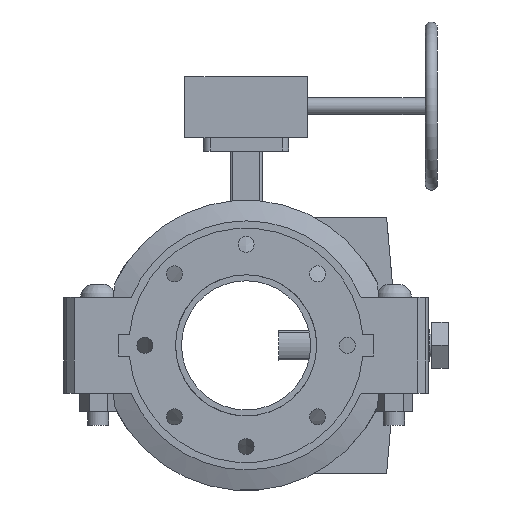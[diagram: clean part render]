
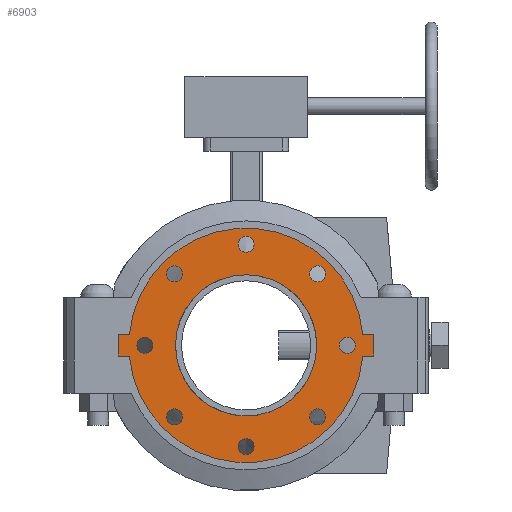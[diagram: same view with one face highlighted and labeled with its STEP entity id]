
A CAD part, front view. The second image highlights one B-rep face of the part: STEP entity #6903.
In plain terms, the highlighted planar face has unit normal (0, -1, 0) as drawn and (0, 0, -1) by its records, which use the part's own axes.
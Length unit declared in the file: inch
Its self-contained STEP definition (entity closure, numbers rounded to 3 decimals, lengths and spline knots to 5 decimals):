
#168=FACE_BOUND('',#892,.T.);
#169=FACE_BOUND('',#893,.T.);
#170=FACE_BOUND('',#894,.T.);
#171=FACE_BOUND('',#895,.T.);
#172=FACE_BOUND('',#896,.T.);
#173=FACE_BOUND('',#897,.T.);
#174=FACE_BOUND('',#898,.T.);
#175=FACE_BOUND('',#899,.T.);
#176=FACE_BOUND('',#900,.T.);
#263=PLANE('',#7514);
#507=FACE_OUTER_BOUND('',#891,.T.);
#891=EDGE_LOOP('',(#4458,#4459,#4460,#4461,#4462,#4463,#4464,#4465));
#892=EDGE_LOOP('',(#4466));
#893=EDGE_LOOP('',(#4467));
#894=EDGE_LOOP('',(#4468));
#895=EDGE_LOOP('',(#4469));
#896=EDGE_LOOP('',(#4470));
#897=EDGE_LOOP('',(#4471));
#898=EDGE_LOOP('',(#4472));
#899=EDGE_LOOP('',(#4473));
#900=EDGE_LOOP('',(#4474,#4475));
#1370=LINE('',#10487,#1881);
#1371=LINE('',#10489,#1882);
#1372=LINE('',#10491,#1883);
#1373=LINE('',#10495,#1884);
#1374=LINE('',#10497,#1885);
#1375=LINE('',#10498,#1886);
#1881=VECTOR('',#8363,0.3937);
#1882=VECTOR('',#8364,0.3937);
#1883=VECTOR('',#8365,0.3937);
#1884=VECTOR('',#8368,0.3937);
#1885=VECTOR('',#8369,0.3937);
#1886=VECTOR('',#8370,0.3937);
#2385=CIRCLE('',#7492,0.375);
#2387=CIRCLE('',#7495,0.375);
#2389=CIRCLE('',#7498,0.375);
#2391=CIRCLE('',#7501,0.375);
#2393=CIRCLE('',#7504,0.375);
#2395=CIRCLE('',#7507,0.375);
#2397=CIRCLE('',#7510,0.375);
#2399=CIRCLE('',#7513,0.375);
#2400=CIRCLE('',#7515,5.5);
#2401=CIRCLE('',#7516,5.5);
#2402=CIRCLE('',#7517,3.3125);
#2403=CIRCLE('',#7518,3.3125);
#2784=VERTEX_POINT('',#10437);
#2786=VERTEX_POINT('',#10443);
#2788=VERTEX_POINT('',#10449);
#2790=VERTEX_POINT('',#10455);
#2792=VERTEX_POINT('',#10461);
#2794=VERTEX_POINT('',#10467);
#2796=VERTEX_POINT('',#10473);
#2798=VERTEX_POINT('',#10479);
#2799=VERTEX_POINT('',#10483);
#2800=VERTEX_POINT('',#10484);
#2801=VERTEX_POINT('',#10486);
#2802=VERTEX_POINT('',#10488);
#2803=VERTEX_POINT('',#10490);
#2804=VERTEX_POINT('',#10492);
#2805=VERTEX_POINT('',#10494);
#2806=VERTEX_POINT('',#10496);
#2807=VERTEX_POINT('',#10499);
#2808=VERTEX_POINT('',#10500);
#3452=EDGE_CURVE('',#2784,#2784,#2385,.T.);
#3455=EDGE_CURVE('',#2786,#2786,#2387,.T.);
#3458=EDGE_CURVE('',#2788,#2788,#2389,.T.);
#3461=EDGE_CURVE('',#2790,#2790,#2391,.T.);
#3464=EDGE_CURVE('',#2792,#2792,#2393,.T.);
#3467=EDGE_CURVE('',#2794,#2794,#2395,.T.);
#3470=EDGE_CURVE('',#2796,#2796,#2397,.T.);
#3473=EDGE_CURVE('',#2798,#2798,#2399,.T.);
#3474=EDGE_CURVE('',#2799,#2800,#2400,.T.);
#3475=EDGE_CURVE('',#2800,#2801,#1370,.T.);
#3476=EDGE_CURVE('',#2801,#2802,#1371,.T.);
#3477=EDGE_CURVE('',#2802,#2803,#1372,.T.);
#3478=EDGE_CURVE('',#2803,#2804,#2401,.T.);
#3479=EDGE_CURVE('',#2804,#2805,#1373,.T.);
#3480=EDGE_CURVE('',#2805,#2806,#1374,.T.);
#3481=EDGE_CURVE('',#2806,#2799,#1375,.T.);
#3482=EDGE_CURVE('',#2807,#2808,#2402,.T.);
#3483=EDGE_CURVE('',#2808,#2807,#2403,.T.);
#4458=ORIENTED_EDGE('',*,*,#3474,.T.);
#4459=ORIENTED_EDGE('',*,*,#3475,.T.);
#4460=ORIENTED_EDGE('',*,*,#3476,.T.);
#4461=ORIENTED_EDGE('',*,*,#3477,.T.);
#4462=ORIENTED_EDGE('',*,*,#3478,.T.);
#4463=ORIENTED_EDGE('',*,*,#3479,.T.);
#4464=ORIENTED_EDGE('',*,*,#3480,.T.);
#4465=ORIENTED_EDGE('',*,*,#3481,.T.);
#4466=ORIENTED_EDGE('',*,*,#3452,.T.);
#4467=ORIENTED_EDGE('',*,*,#3455,.T.);
#4468=ORIENTED_EDGE('',*,*,#3458,.T.);
#4469=ORIENTED_EDGE('',*,*,#3461,.T.);
#4470=ORIENTED_EDGE('',*,*,#3464,.T.);
#4471=ORIENTED_EDGE('',*,*,#3467,.T.);
#4472=ORIENTED_EDGE('',*,*,#3470,.T.);
#4473=ORIENTED_EDGE('',*,*,#3473,.T.);
#4474=ORIENTED_EDGE('',*,*,#3482,.T.);
#4475=ORIENTED_EDGE('',*,*,#3483,.T.);
#6903=ADVANCED_FACE('',(#507,#168,#169,#170,#171,#172,#173,#174,#175,#176),
#263,.T.);
#7492=AXIS2_PLACEMENT_3D('',#10439,#8308,#8309);
#7495=AXIS2_PLACEMENT_3D('',#10445,#8315,#8316);
#7498=AXIS2_PLACEMENT_3D('',#10451,#8322,#8323);
#7501=AXIS2_PLACEMENT_3D('',#10457,#8329,#8330);
#7504=AXIS2_PLACEMENT_3D('',#10463,#8336,#8337);
#7507=AXIS2_PLACEMENT_3D('',#10469,#8343,#8344);
#7510=AXIS2_PLACEMENT_3D('',#10475,#8350,#8351);
#7513=AXIS2_PLACEMENT_3D('',#10481,#8357,#8358);
#7514=AXIS2_PLACEMENT_3D('',#10482,#8359,#8360);
#7515=AXIS2_PLACEMENT_3D('',#10485,#8361,#8362);
#7516=AXIS2_PLACEMENT_3D('',#10493,#8366,#8367);
#7517=AXIS2_PLACEMENT_3D('',#10501,#8371,#8372);
#7518=AXIS2_PLACEMENT_3D('',#10502,#8373,#8374);
#8308=DIRECTION('center_axis',(0.,0.,1.));
#8309=DIRECTION('ref_axis',(-0.707,0.707,0.));
#8315=DIRECTION('center_axis',(0.,0.,1.));
#8316=DIRECTION('ref_axis',(0.,1.,0.));
#8322=DIRECTION('center_axis',(0.,0.,1.));
#8323=DIRECTION('ref_axis',(0.707,0.707,0.));
#8329=DIRECTION('center_axis',(0.,0.,1.));
#8330=DIRECTION('ref_axis',(1.,0.,0.));
#8336=DIRECTION('center_axis',(0.,0.,1.));
#8337=DIRECTION('ref_axis',(0.707,-0.707,0.));
#8343=DIRECTION('center_axis',(0.,0.,1.));
#8344=DIRECTION('ref_axis',(0.,-1.,0.));
#8350=DIRECTION('center_axis',(0.,0.,1.));
#8351=DIRECTION('ref_axis',(-0.707,-0.707,0.));
#8357=DIRECTION('center_axis',(0.,0.,1.));
#8358=DIRECTION('ref_axis',(-1.,0.,0.));
#8359=DIRECTION('center_axis',(0.,0.,-1.));
#8360=DIRECTION('ref_axis',(-1.,0.,0.));
#8361=DIRECTION('center_axis',(0.,0.,-1.));
#8362=DIRECTION('ref_axis',(-1.,0.,0.));
#8363=DIRECTION('',(0.,1.,0.));
#8364=DIRECTION('',(1.,0.,0.));
#8365=DIRECTION('',(0.,-1.,0.));
#8366=DIRECTION('center_axis',(0.,0.,-1.));
#8367=DIRECTION('ref_axis',(-1.,0.,0.));
#8368=DIRECTION('',(0.,-1.,0.));
#8369=DIRECTION('',(-1.,0.,0.));
#8370=DIRECTION('',(0.,1.,0.));
#8371=DIRECTION('center_axis',(0.,0.,1.));
#8372=DIRECTION('ref_axis',(-1.,0.,0.));
#8373=DIRECTION('center_axis',(0.,0.,1.));
#8374=DIRECTION('ref_axis',(-1.,0.,0.));
#10437=CARTESIAN_POINT('',(-3.09359,3.09359,-0.5));
#10439=CARTESIAN_POINT('Origin',(-3.35876,3.35876,-0.5));
#10443=CARTESIAN_POINT('',(0.,4.375,-0.5));
#10445=CARTESIAN_POINT('Origin',(0.,4.75,-0.5));
#10449=CARTESIAN_POINT('',(3.09359,3.09359,-0.5));
#10451=CARTESIAN_POINT('Origin',(3.35876,3.35876,-0.5));
#10455=CARTESIAN_POINT('',(4.375,0.,-0.5));
#10457=CARTESIAN_POINT('Origin',(4.75,0.,-0.5));
#10461=CARTESIAN_POINT('',(3.09359,-3.09359,-0.5));
#10463=CARTESIAN_POINT('Origin',(3.35876,-3.35876,-0.5));
#10467=CARTESIAN_POINT('',(0.,-4.375,-0.5));
#10469=CARTESIAN_POINT('Origin',(0.,-4.75,-0.5));
#10473=CARTESIAN_POINT('',(-3.09359,-3.09359,-0.5));
#10475=CARTESIAN_POINT('Origin',(-3.35876,-3.35876,-0.5));
#10479=CARTESIAN_POINT('',(-4.375,0.,-0.5));
#10481=CARTESIAN_POINT('Origin',(-4.75,0.,-0.5));
#10482=CARTESIAN_POINT('Origin',(0.,0.,-0.5));
#10483=CARTESIAN_POINT('',(-0.5,-5.47723,-0.5));
#10484=CARTESIAN_POINT('',(-0.5,5.47723,-0.5));
#10485=CARTESIAN_POINT('Origin',(0.,0.,-0.5));
#10486=CARTESIAN_POINT('',(-0.5,6.,-0.5));
#10487=CARTESIAN_POINT('',(-0.5,-6.,-0.5));
#10488=CARTESIAN_POINT('',(0.5,6.,-0.5));
#10489=CARTESIAN_POINT('',(-0.5,6.,-0.5));
#10490=CARTESIAN_POINT('',(0.5,5.47723,-0.5));
#10491=CARTESIAN_POINT('',(0.5,6.,-0.5));
#10492=CARTESIAN_POINT('',(0.5,-5.47723,-0.5));
#10493=CARTESIAN_POINT('Origin',(0.,0.,-0.5));
#10494=CARTESIAN_POINT('',(0.5,-6.,-0.5));
#10495=CARTESIAN_POINT('',(0.5,6.,-0.5));
#10496=CARTESIAN_POINT('',(-0.5,-6.,-0.5));
#10497=CARTESIAN_POINT('',(0.5,-6.,-0.5));
#10498=CARTESIAN_POINT('',(-0.5,-6.,-0.5));
#10499=CARTESIAN_POINT('',(0.5,3.27455,-0.5));
#10500=CARTESIAN_POINT('',(3.3125,0.,-0.5));
#10501=CARTESIAN_POINT('Origin',(0.,0.,-0.5));
#10502=CARTESIAN_POINT('Origin',(0.,0.,-0.5));
